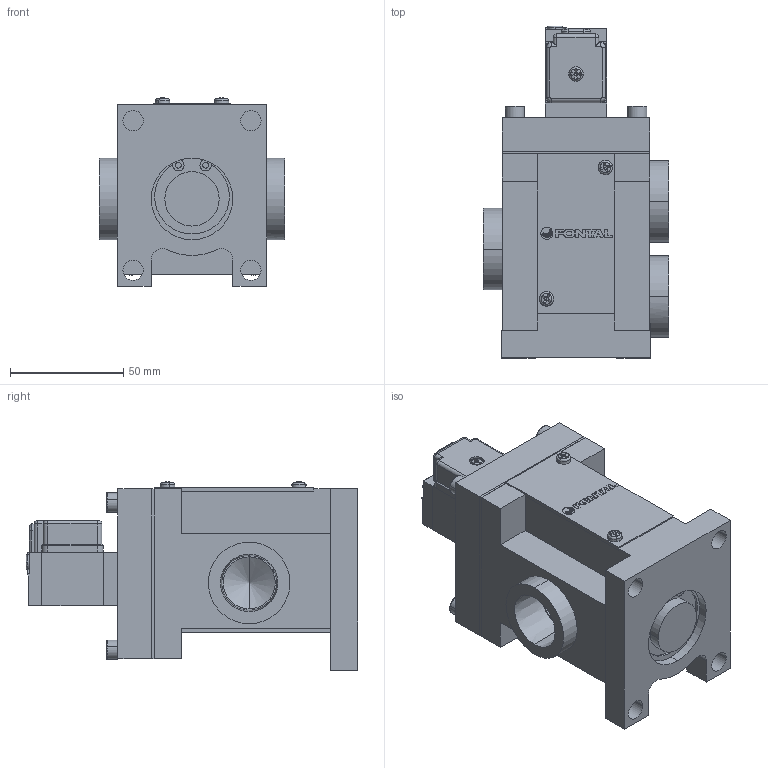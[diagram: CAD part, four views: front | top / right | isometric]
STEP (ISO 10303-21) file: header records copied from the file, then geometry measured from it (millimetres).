
FILE_DESCRIPTION (( 'STEP AP203' ), '1' );
FILE_NAME ('PMS2315#-06-#G#.STEP', '2016-03-09T08:21:30', ( 'Sam Lin' ), ( '' ), 'SwSTEP 2.0', 'SolidWorks 2013', '' );
FILE_SCHEMA (( 'CONFIG_CONTROL_DESIGN' ));
Length unit declared in the file: metre
Products named in the file (16): PMS2315#-06-#G#; PMS2315-2; PM15-MARK; PM06-C3-M4_1; PMS2315-3; ISO 4762 M5 x 20; PMS2315-4; PMS2315-5; PMS2315-1(3-4); PMS2315-6; PMS2315-7; PM06-C1_1; PM06-G1; PM06-C4_1; PM06-C6-M3_1; PM06-C5_1
Assembly tree (22 placements, depth 2):
  PMS2315#-06-#G#
    PMS2315-2
    PM15-MARK
    PM06-C3-M4_1  x3
    PMS2315-3
    ISO 4762 M5 x 20  x5
    PMS2315-4
    PMS2315-5
    PMS2315-1(3-4)
    PMS2315-6
    PMS2315-7
    PM06-C1_1
    PM06-C4_1
    PM06-C6-M3_1  x2
    PM06-C5_1
    PM06-G1
Bounding box: 82 x 146.5 x 83.05 mm (x, y, z)
Volume: 443987.3 mm3; surface area: 95807.8 mm2
Topology: 28 solids, 28 shells, 655 faces, 1587 edges, 992 vertices
Faces by surface type: plane 351, cylinder 153, cone 77, bspline 70, torus 4
Entity records: 16132 total; most frequent: CARTESIAN_POINT 3769, DIRECTION 2200, ORIENTED_EDGE 2146, EDGE_CURVE 1073, AXIS2_PLACEMENT_3D 786, VERTEX_POINT 691, VECTOR 628, LINE 628
